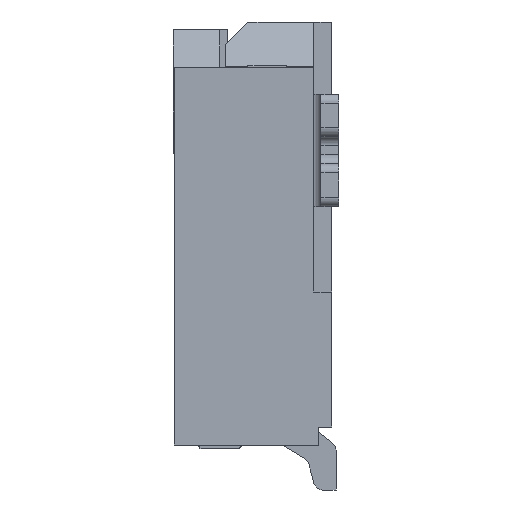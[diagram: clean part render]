
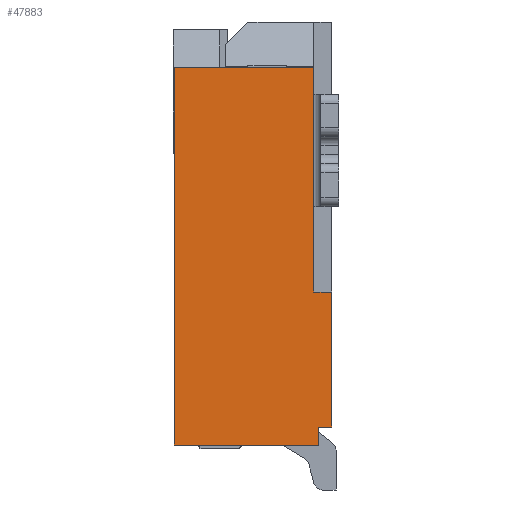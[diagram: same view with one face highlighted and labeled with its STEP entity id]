
A CAD part, left-side view. The second image highlights one B-rep face of the part: STEP entity #47883.
In plain terms, the highlighted planar face has unit normal (-1, 0, 0).
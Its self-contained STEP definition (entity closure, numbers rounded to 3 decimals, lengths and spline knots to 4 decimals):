
#10522=ORIENTED_EDGE('',*,*,#21568,.T.);
#10523=ORIENTED_EDGE('',*,*,#21575,.T.);
#10524=ORIENTED_EDGE('',*,*,#21576,.F.);
#10525=ORIENTED_EDGE('',*,*,#21577,.F.);
#10526=ORIENTED_EDGE('',*,*,#21578,.F.);
#10527=ORIENTED_EDGE('',*,*,#21579,.T.);
#10528=ORIENTED_EDGE('',*,*,#21574,.T.);
#10529=ORIENTED_EDGE('',*,*,#21580,.F.);
#21568=EDGE_CURVE('',#27126,#27125,#32189,.T.);
#21574=EDGE_CURVE('',#27128,#27131,#32195,.T.);
#21575=EDGE_CURVE('',#27125,#27132,#32196,.T.);
#21576=EDGE_CURVE('',#27133,#27132,#32197,.T.);
#21577=EDGE_CURVE('',#27134,#27133,#32198,.T.);
#21578=EDGE_CURVE('',#27135,#27134,#32199,.T.);
#21579=EDGE_CURVE('',#27135,#27128,#32200,.T.);
#21580=EDGE_CURVE('',#27126,#27131,#32201,.T.);
#27125=VERTEX_POINT('',#75810);
#27126=VERTEX_POINT('',#75812);
#27128=VERTEX_POINT('',#75818);
#27131=VERTEX_POINT('',#75823);
#27132=VERTEX_POINT('',#75827);
#27133=VERTEX_POINT('',#75829);
#27134=VERTEX_POINT('',#75831);
#27135=VERTEX_POINT('',#75833);
#32189=LINE('',#75811,#38000);
#32195=LINE('',#75824,#38006);
#32196=LINE('',#75826,#38007);
#32197=LINE('',#75828,#38008);
#32198=LINE('',#75830,#38009);
#32199=LINE('',#75832,#38010);
#32200=LINE('',#75834,#38011);
#32201=LINE('',#75835,#38012);
#38000=VECTOR('',#61935,1000.);
#38006=VECTOR('',#61943,1000.);
#38007=VECTOR('',#61946,1000.);
#38008=VECTOR('',#61947,1000.);
#38009=VECTOR('',#61948,1000.);
#38010=VECTOR('',#61949,1000.);
#38011=VECTOR('',#61950,1000.);
#38012=VECTOR('',#61951,1000.);
#41635=EDGE_LOOP('',(#10522,#10523,#10524,#10525,#10526,#10527,#10528,#10529));
#43946=FACE_BOUND('',#41635,.T.);
#45718=PLANE('',#51758);
#47883=ADVANCED_FACE('',(#43946),#45718,.F.);
#51758=AXIS2_PLACEMENT_3D('',#75825,#61944,#61945);
#61935=DIRECTION('',(0.,1.,0.));
#61943=DIRECTION('',(0.,1.,0.));
#61944=DIRECTION('',(1.,0.,0.));
#61945=DIRECTION('',(0.,0.,1.));
#61946=DIRECTION('',(0.,0.,-1.));
#61947=DIRECTION('',(0.,1.,0.));
#61948=DIRECTION('',(0.,0.,-1.));
#61949=DIRECTION('',(0.,1.,0.));
#61950=DIRECTION('',(0.,0.,1.));
#61951=DIRECTION('',(0.,0.,-1.));
#75810=CARTESIAN_POINT('',(0.,1.8254,-0.5));
#75811=CARTESIAN_POINT('',(0.,0.2754,-0.5));
#75812=CARTESIAN_POINT('',(0.,0.2754,-0.5));
#75818=CARTESIAN_POINT('',(0.,0.0754,-3.));
#75823=CARTESIAN_POINT('',(0.,0.2754,-3.));
#75824=CARTESIAN_POINT('',(0.,0.0754,-3.));
#75825=CARTESIAN_POINT('',(0.,0.9504,-2.6));
#75826=CARTESIAN_POINT('',(0.,1.8254,-0.5));
#75827=CARTESIAN_POINT('',(0.,1.8254,-4.7));
#75828=CARTESIAN_POINT('',(0.,0.2254,-4.7));
#75829=CARTESIAN_POINT('',(0.,0.2254,-4.7));
#75830=CARTESIAN_POINT('',(0.,0.2254,-4.5));
#75831=CARTESIAN_POINT('',(0.,0.2254,-4.5));
#75832=CARTESIAN_POINT('',(0.,0.0754,-4.5));
#75833=CARTESIAN_POINT('',(0.,0.0754,-4.5));
#75834=CARTESIAN_POINT('',(0.,0.0754,-4.5));
#75835=CARTESIAN_POINT('',(0.,0.2754,-0.5));
